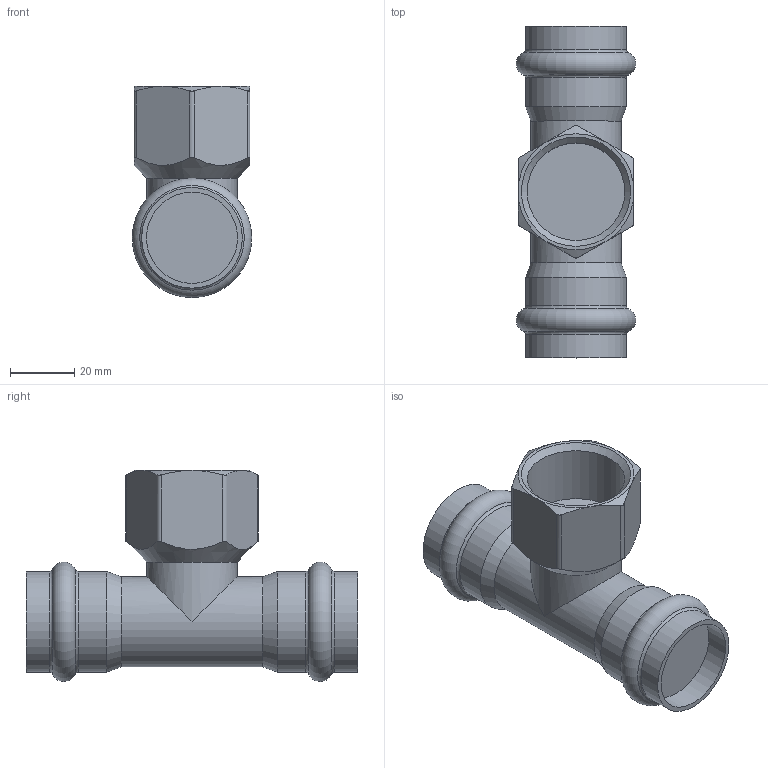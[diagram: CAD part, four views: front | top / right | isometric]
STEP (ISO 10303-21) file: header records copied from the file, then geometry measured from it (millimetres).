
FILE_DESCRIPTION(('STEP AP203'), '1');
FILE_NAME('VTi.932.I.280628', '', ('UNSPECIFIED'), ('UNSPECIFIED'), 'C3D Converter', 'C3D Toolkit', '');
FILE_SCHEMA(('CONFIG_CONTROL_DESIGN'));
Length unit declared in the file: millimetre
Products named in the file (1): ВР.302669.160.000 СБ
Bounding box: 37.1 x 103 x 65.55 mm (x, y, z)
Volume: 86032 mm3; surface area: 19779.9 mm2
Topology: 1 solids, 1 shells, 43 faces, 95 edges, 57 vertices
Faces by surface type: cylinder 15, plane 12, cone 10, torus 6
Full cylindrical faces by diameter (mm): 28 x2, 28.3 x2, 30.292 x1, 31.26 x4
Entity records: 2158 total; most frequent: CARTESIAN_POINT 1303, DIRECTION 156, ORIENTED_EDGE 150, EDGE_CURVE 75, AXIS2_PLACEMENT_3D 72, EDGE_LOOP 66, VERTEX_POINT 57, ADVANCED_FACE 43
